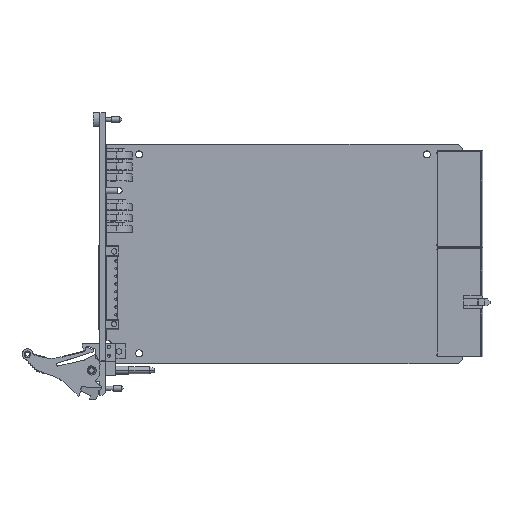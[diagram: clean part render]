
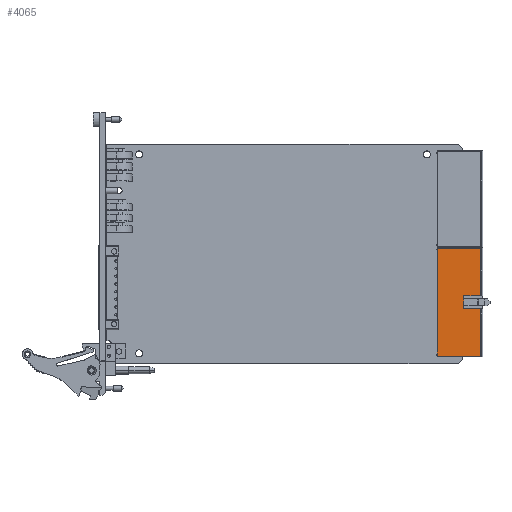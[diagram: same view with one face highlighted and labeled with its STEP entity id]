
A CAD part, top view. The second image highlights one B-rep face of the part: STEP entity #4065.
In plain terms, the highlighted planar face has unit normal (0, 0, 1).
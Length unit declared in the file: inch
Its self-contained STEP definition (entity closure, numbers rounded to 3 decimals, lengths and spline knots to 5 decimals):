
#2418=DIRECTION('',(-1.,0.,0.));
#2419=VECTOR('',#2418,0.30315);
#2420=CARTESIAN_POINT('',(6.62289,-2.71512,
0.35728));
#2421=LINE('',#2420,#2419);
#2422=DIRECTION('',(0.,-1.,0.));
#2423=VECTOR('',#2422,0.06);
#2424=CARTESIAN_POINT('',(6.31974,-2.71512,
0.35728));
#2425=LINE('',#2424,#2423);
#2426=DIRECTION('',(0.,-1.,0.));
#2427=VECTOR('',#2426,0.12);
#2428=CARTESIAN_POINT('',(6.31974,-2.77512,
0.35728));
#2429=LINE('',#2428,#2427);
#2430=DIRECTION('',(0.,-1.,0.));
#2431=VECTOR('',#2430,0.06);
#2432=CARTESIAN_POINT('',(6.31974,-2.89512,
0.35728));
#2433=LINE('',#2432,#2431);
#2434=DIRECTION('',(-1.,0.,0.));
#2435=VECTOR('',#2434,0.30315);
#2436=CARTESIAN_POINT('',(6.62289,-2.95512,
0.35728));
#2437=LINE('',#2436,#2435);
#2438=DIRECTION('',(0.,-1.,0.));
#2439=VECTOR('',#2438,0.84457);
#2440=CARTESIAN_POINT('',(6.62289,-2.95512,
0.35728));
#2441=LINE('',#2440,#2439);
#2442=DIRECTION('',(0.,1.,0.));
#2443=VECTOR('',#2442,1.92913);
#2444=CARTESIAN_POINT('',(5.84533,-3.79969,
0.35728));
#2445=LINE('',#2444,#2443);
#2446=DIRECTION('',(1.,0.,0.));
#2447=VECTOR('',#2446,0.77756);
#2448=CARTESIAN_POINT('',(5.84533,-1.87055,
0.35728));
#2449=LINE('',#2448,#2447);
#2450=DIRECTION('',(0.,-1.,0.));
#2451=VECTOR('',#2450,0.84457);
#2452=CARTESIAN_POINT('',(6.62289,-1.87055,
0.35728));
#2453=LINE('',#2452,#2451);
#2562=DIRECTION('',(1.,0.,0.));
#2563=VECTOR('',#2562,0.77756);
#2564=CARTESIAN_POINT('',(5.84533,-3.79969,
0.35728));
#2565=LINE('',#2564,#2563);
#2918=CARTESIAN_POINT('',(5.84533,-3.79969,
0.35728));
#2920=VERTEX_POINT('',#2918);
#2921=CARTESIAN_POINT('',(6.62289,-3.79969,
0.35728));
#2922=VERTEX_POINT('',#2921);
#2924=CARTESIAN_POINT('',(5.84533,-1.87055,
0.35728));
#2926=VERTEX_POINT('',#2924);
#2927=CARTESIAN_POINT('',(6.62289,-1.87055,
0.35728));
#2928=VERTEX_POINT('',#2927);
#2941=CARTESIAN_POINT('',(6.62289,-2.71512,
0.35728));
#2942=CARTESIAN_POINT('',(6.31974,-2.71512,
0.35728));
#2943=VERTEX_POINT('',#2941);
#2944=VERTEX_POINT('',#2942);
#2945=CARTESIAN_POINT('',(6.31974,-2.77512,
0.35728));
#2946=VERTEX_POINT('',#2945);
#2947=CARTESIAN_POINT('',(6.62289,-2.95512,
0.35728));
#2948=CARTESIAN_POINT('',(6.31974,-2.95512,
0.35728));
#2949=VERTEX_POINT('',#2947);
#2950=VERTEX_POINT('',#2948);
#2951=CARTESIAN_POINT('',(6.31974,-2.89512,
0.35728));
#2952=VERTEX_POINT('',#2951);
#4039=CARTESIAN_POINT('',(5.84533,-3.79969,
0.35728));
#4040=DIRECTION('',(0.,0.,1.));
#4041=DIRECTION('',(1.,0.,0.));
#4042=AXIS2_PLACEMENT_3D('',#4039,#4040,#4041);
#4043=PLANE('',#4042);
#4045=ORIENTED_EDGE('',*,*,#4044,.T.);
#4047=ORIENTED_EDGE('',*,*,#4046,.T.);
#4049=ORIENTED_EDGE('',*,*,#4048,.T.);
#4051=ORIENTED_EDGE('',*,*,#4050,.T.);
#4053=ORIENTED_EDGE('',*,*,#4052,.F.);
#4055=ORIENTED_EDGE('',*,*,#4054,.T.);
#4057=ORIENTED_EDGE('',*,*,#4056,.F.);
#4058=ORIENTED_EDGE('',*,*,#4028,.T.);
#4060=ORIENTED_EDGE('',*,*,#4059,.T.);
#4062=ORIENTED_EDGE('',*,*,#4061,.T.);
#4063=EDGE_LOOP('',(#4045,#4047,#4049,#4051,#4053,#4055,#4057,#4058,#4060,
#4062));
#4064=FACE_OUTER_BOUND('',#4063,.F.);
#4065=ADVANCED_FACE('',(#4064),#4043,.T.);
#4028=EDGE_CURVE('',#2920,#2926,#2445,.T.);
#4044=EDGE_CURVE('',#2943,#2944,#2421,.T.);
#4046=EDGE_CURVE('',#2944,#2946,#2425,.T.);
#4048=EDGE_CURVE('',#2946,#2952,#2429,.T.);
#4050=EDGE_CURVE('',#2952,#2950,#2433,.T.);
#4052=EDGE_CURVE('',#2949,#2950,#2437,.T.);
#4054=EDGE_CURVE('',#2949,#2922,#2441,.T.);
#4056=EDGE_CURVE('',#2920,#2922,#2565,.T.);
#4059=EDGE_CURVE('',#2926,#2928,#2449,.T.);
#4061=EDGE_CURVE('',#2928,#2943,#2453,.T.);
